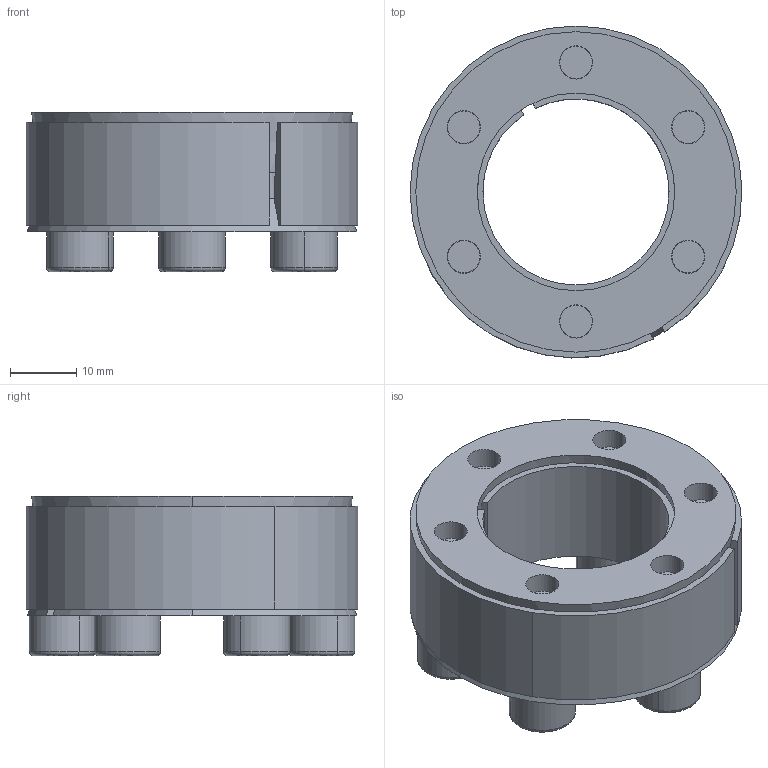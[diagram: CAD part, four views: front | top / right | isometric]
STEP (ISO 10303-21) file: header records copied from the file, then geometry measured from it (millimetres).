
FILE_DESCRIPTION (( 'STEP AP214' ), '1' );
FILE_NAME ('CONEX-L-28x50.step', '2013-04-06T13:22:30', ( 'Pc' ), ( '' ), 'SwSTEP 2.0', 'SolidWorks 2013', '' );
FILE_SCHEMA (( 'AUTOMOTIVE_DESIGN' ));
Length unit declared in the file: millimetre
Products named in the file (1): CONEX-L-28x50
Bounding box: 49.98 x 49.97 x 24.01 mm (x, y, z)
Volume: 22686.7 mm3; surface area: 19853.9 mm2
Topology: 9 solids, 9 shells, 223 faces, 511 edges, 306 vertices
Faces by surface type: plane 101, cylinder 58, cone 40, torus 24
Entity records: 8830 total; most frequent: DIRECTION 1180, CARTESIAN_POINT 1062, ORIENTED_EDGE 998, EDGE_CURVE 499, AXIS2_PLACEMENT_3D 465, VERTEX_POINT 306, EDGE_LOOP 265, VECTOR 250
